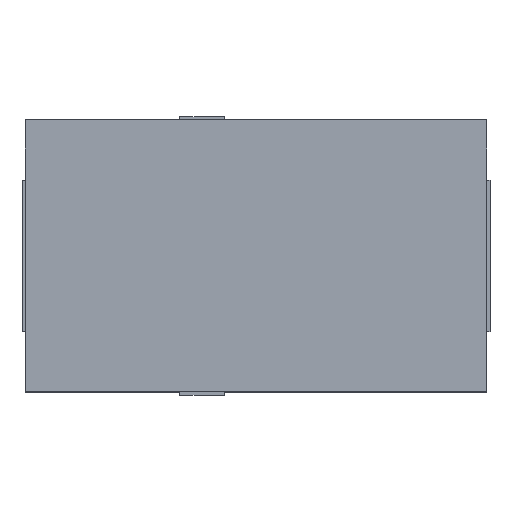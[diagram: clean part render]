
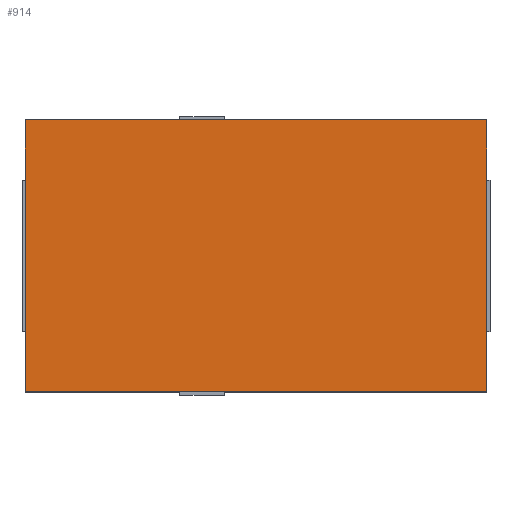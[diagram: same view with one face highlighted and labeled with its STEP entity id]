
A CAD part, top view. The second image highlights one B-rep face of the part: STEP entity #914.
In plain terms, the highlighted planar face has unit normal (0, 0, 1).
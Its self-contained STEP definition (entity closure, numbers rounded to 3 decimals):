
#481=CARTESIAN_POINT('',(1.45,4.721,1.4));
#482=VERTEX_POINT('',#481);
#489=CARTESIAN_POINT('',(8.75,4.721,1.4));
#490=VERTEX_POINT('',#489);
#491=CARTESIAN_POINT('',(1.45,4.721,1.4));
#492=DIRECTION('',(1.0,0.0,0.0));
#493=VECTOR('',#492,7.3);
#494=LINE('',#491,#493);
#495=EDGE_CURVE('',#482,#490,#494,.T.);
#804=CARTESIAN_POINT('',(8.75,0.421,1.4));
#805=VERTEX_POINT('',#804);
#806=CARTESIAN_POINT('',(8.75,4.721,1.4));
#807=DIRECTION('',(0.0,-1.0,0.0));
#808=VECTOR('',#807,4.3);
#809=LINE('',#806,#808);
#810=EDGE_CURVE('',#490,#805,#809,.T.);
#836=CARTESIAN_POINT('',(1.45,0.421,1.4));
#837=VERTEX_POINT('',#836);
#844=CARTESIAN_POINT('',(1.45,0.421,1.4));
#845=DIRECTION('',(0.0,1.0,0.0));
#846=VECTOR('',#845,4.3);
#847=LINE('',#844,#846);
#848=EDGE_CURVE('',#837,#482,#847,.T.);
#870=CARTESIAN_POINT('',(8.75,0.421,1.4));
#871=DIRECTION('',(-1.0,0.0,0.0));
#872=VECTOR('',#871,7.3);
#873=LINE('',#870,#872);
#874=EDGE_CURVE('',#805,#837,#873,.T.);
#903=CARTESIAN_POINT('',(5.1,2.571,1.4));
#904=DIRECTION('',(0.0,0.0,1.0));
#905=DIRECTION('',(1.0,0.0,0.0));
#906=AXIS2_PLACEMENT_3D('',#903,#904,#905);
#907=PLANE('',#906);
#908=ORIENTED_EDGE('',*,*,#848,.F.);
#909=ORIENTED_EDGE('',*,*,#874,.F.);
#910=ORIENTED_EDGE('',*,*,#810,.F.);
#911=ORIENTED_EDGE('',*,*,#495,.F.);
#912=EDGE_LOOP('',(#908,#909,#910,#911));
#913=FACE_OUTER_BOUND('',#912,.T.);
#914=ADVANCED_FACE('',(#913),#907,.T.);
